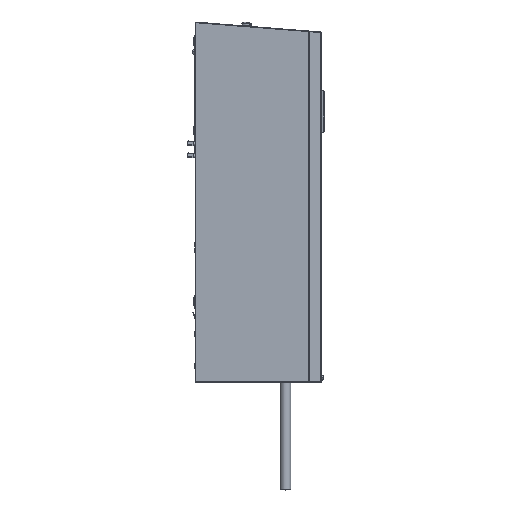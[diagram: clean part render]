
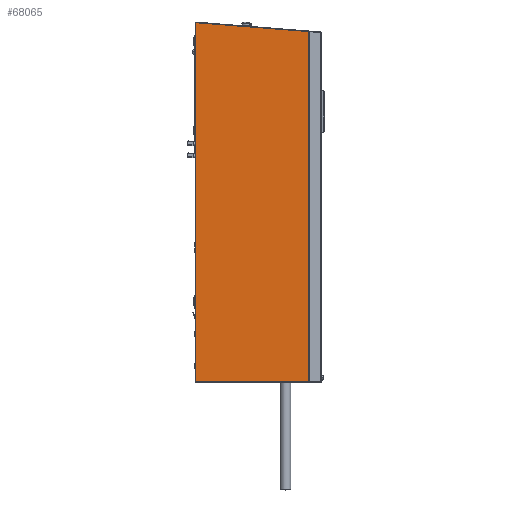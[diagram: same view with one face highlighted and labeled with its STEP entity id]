
A CAD part, top view. The second image highlights one B-rep face of the part: STEP entity #68065.
In plain terms, the highlighted planar face has unit normal (0, 0, 1).
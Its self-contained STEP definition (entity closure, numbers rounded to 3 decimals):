
#46409 = VERTEX_POINT ( 'NONE', #92210 ) ;
#46411 = EDGE_CURVE ( 'NONE', #46412, #46409, #92209, .T. ) ;
#46412 = VERTEX_POINT ( 'NONE', #92205 ) ;
#46421 = VERTEX_POINT ( 'NONE', #92265 ) ;
#51438 = DIRECTION ( 'NONE',  ( 0., 1., 0. ) ) ;
#51439 = VECTOR ( 'NONE', #51438, 1000. ) ;
#51441 = CARTESIAN_POINT ( 'NONE',  ( 23.672, -353.09, 190. ) ) ;
#51443 = LINE ( 'NONE', #51441, #51439 ) ;
#52241 = DIRECTION ( 'NONE',  ( 0.997, -0.078, 0. ) ) ;
#52243 = VECTOR ( 'NONE', #52241, 1000. ) ;
#52245 = CARTESIAN_POINT ( 'NONE',  ( -168., 252.51, 190. ) ) ;
#52246 = LINE ( 'NONE', #52245, #52243 ) ;
#52439 = DIRECTION ( 'NONE',  ( 0., 1., 0. ) ) ;
#52441 = VECTOR ( 'NONE', #52439, 1000. ) ;
#52442 = CARTESIAN_POINT ( 'NONE',  ( -168., -353.09, 190. ) ) ;
#52443 = LINE ( 'NONE', #52442, #52441 ) ;
#52480 = CARTESIAN_POINT ( 'NONE',  ( 23.672, 237.425, 190. ) ) ;
#52677 = DIRECTION ( 'NONE',  ( -1., 0., 0. ) ) ;
#52678 = DIRECTION ( 'NONE',  ( 0., 0., 1. ) ) ;
#52679 = CARTESIAN_POINT ( 'NONE',  ( -168., -353.09, 190. ) ) ;
#52681 = AXIS2_PLACEMENT_3D ( 'NONE', #52679, #52678, #52677 ) ;
#52685 = PLANE ( 'NONE',  #52681 ) ;
#52720 = FACE_OUTER_BOUND ( 'NONE', #68069, .T. ) ;
#67767 = EDGE_CURVE ( 'NONE', #46409, #67956, #51443, .T. ) ;
#67851 = EDGE_CURVE ( 'NONE', #46421, #67956, #52246, .T. ) ;
#67856 = ORIENTED_EDGE ( 'NONE', *, *, #67906, .F. ) ;
#67861 = ORIENTED_EDGE ( 'NONE', *, *, #46411, .T. ) ;
#67906 = EDGE_CURVE ( 'NONE', #46412, #46421, #52443, .T. ) ;
#67956 = VERTEX_POINT ( 'NONE', #52480 ) ;
#68065 = ADVANCED_FACE ( 'NONE', ( #52720 ), #52685, .T. ) ;
#68069 = EDGE_LOOP ( 'NONE', ( #68074, #68079, #67856, #67861 ) ) ;
#68074 = ORIENTED_EDGE ( 'NONE', *, *, #67767, .T. ) ;
#68079 = ORIENTED_EDGE ( 'NONE', *, *, #67851, .F. ) ;
#92205 = CARTESIAN_POINT ( 'NONE',  ( -168., -353.09, 190. ) ) ;
#92206 = DIRECTION ( 'NONE',  ( 1., 0., 0. ) ) ;
#92207 = VECTOR ( 'NONE', #92206, 1000. ) ;
#92208 = CARTESIAN_POINT ( 'NONE',  ( -168., -353.09, 190. ) ) ;
#92209 = LINE ( 'NONE', #92208, #92207 ) ;
#92210 = CARTESIAN_POINT ( 'NONE',  ( 23.672, -353.09, 190. ) ) ;
#92265 = CARTESIAN_POINT ( 'NONE',  ( -168., 252.51, 190. ) ) ;
